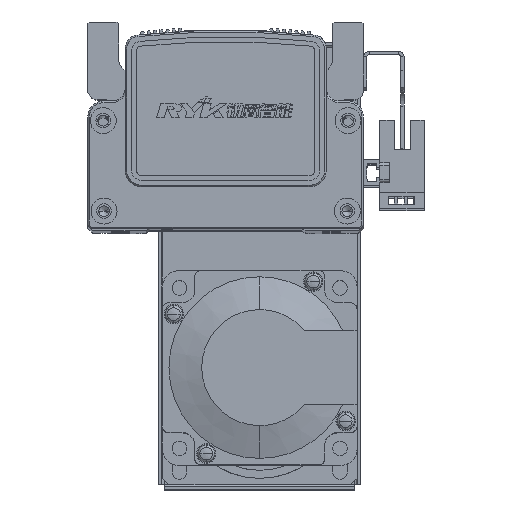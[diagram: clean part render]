
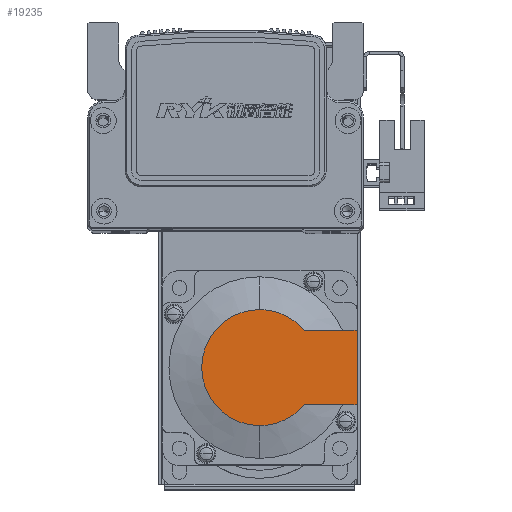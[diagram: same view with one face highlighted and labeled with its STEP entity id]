
A CAD part, top view. The second image highlights one B-rep face of the part: STEP entity #19235.
In plain terms, the highlighted planar face has unit normal (0, 0, 1) as drawn and (-1, 0, 0) by its records, which use the part's own axes.
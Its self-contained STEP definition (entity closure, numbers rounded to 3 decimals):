
#3270 = VERTEX_POINT ( 'NONE', #53366 ) ;
#3277 = VERTEX_POINT ( 'NONE', #53386 ) ;
#3295 = VERTEX_POINT ( 'NONE', #53452 ) ;
#3559 = VERTEX_POINT ( 'NONE', #51569 ) ;
#3617 = VERTEX_POINT ( 'NONE', #51671 ) ;
#3689 = VERTEX_POINT ( 'NONE', #51612 ) ;
#5653 = FACE_OUTER_BOUND ( 'NONE', #45326, .T. ) ;
#19235 = ADVANCED_FACE ( 'NONE', ( #5653 ), #28024, .T. ) ;
#23830 = ORIENTED_EDGE ( 'NONE', *, *, #39373, .F. ) ;
#23897 = ORIENTED_EDGE ( 'NONE', *, *, #48641, .T. ) ;
#23899 = ORIENTED_EDGE ( 'NONE', *, *, #39274, .T. ) ;
#23908 = ORIENTED_EDGE ( 'NONE', *, *, #39407, .F. ) ;
#23921 = ORIENTED_EDGE ( 'NONE', *, *, #39346, .T. ) ;
#23930 = ORIENTED_EDGE ( 'NONE', *, *, #48532, .T. ) ;
#28007 = CARTESIAN_POINT ( 'NONE',  ( -99., -8.941, 0. ) ) ;
#28024 = PLANE ( 'NONE',  #43385 ) ;
#28032 = DIRECTION ( 'NONE',  ( 0., 0., 1. ) ) ;
#28046 = DIRECTION ( 'NONE',  ( -1., 0., 0. ) ) ;
#28907 = CARTESIAN_POINT ( 'NONE',  ( -99., 0., 0. ) ) ;
#28917 = DIRECTION ( 'NONE',  ( -1., 0., 0. ) ) ;
#28925 = DIRECTION ( 'NONE',  ( 0., 0., -1. ) ) ;
#29025 = CARTESIAN_POINT ( 'NONE',  ( -99., 0., 0. ) ) ;
#29042 = DIRECTION ( 'NONE',  ( 0., 0., -1. ) ) ;
#29047 = DIRECTION ( 'NONE',  ( -1., 0., 0. ) ) ;
#34128 = LINE ( 'NONE', #41793, #34142 ) ;
#34142 = VECTOR ( 'NONE', #41811, 1000. ) ;
#34184 = LINE ( 'NONE', #41835, #34191 ) ;
#34191 = VECTOR ( 'NONE', #41825, 1000. ) ;
#34240 = VECTOR ( 'NONE', #41927, 1000. ) ;
#34293 = LINE ( 'NONE', #41939, #34240 ) ;
#39274 = EDGE_CURVE ( 'NONE', #3559, #3277, #46450, .T. ) ;
#39346 = EDGE_CURVE ( 'NONE', #3617, #3559, #34128, .T. ) ;
#39373 = EDGE_CURVE ( 'NONE', #3617, #3689, #34184, .T. ) ;
#39407 = EDGE_CURVE ( 'NONE', #3689, #3270, #34293, .T. ) ;
#41629 = DIRECTION ( 'NONE',  ( -1., 0., 0. ) ) ;
#41647 = CARTESIAN_POINT ( 'NONE',  ( -99., 0., 0. ) ) ;
#41648 = DIRECTION ( 'NONE',  ( 0., 0., -1. ) ) ;
#41793 = CARTESIAN_POINT ( 'NONE',  ( -99., -8.941, -11.45 ) ) ;
#41811 = DIRECTION ( 'NONE',  ( 0., -1., 0. ) ) ;
#41825 = DIRECTION ( 'NONE',  ( 0., 0., 1. ) ) ;
#41835 = CARTESIAN_POINT ( 'NONE',  ( -99., 30., 25. ) ) ;
#41927 = DIRECTION ( 'NONE',  ( 0., -1., 0. ) ) ;
#41939 = CARTESIAN_POINT ( 'NONE',  ( -99., 0., 11.45 ) ) ;
#43385 = AXIS2_PLACEMENT_3D ( 'NONE', #28007, #28046, #28032 ) ;
#44200 = AXIS2_PLACEMENT_3D ( 'NONE', #41647, #41629, #41648 ) ;
#45326 = EDGE_LOOP ( 'NONE', ( #23921, #23899, #23897, #23930, #23908, #23830 ) ) ;
#45794 = CIRCLE ( 'NONE', #52990, 17.881 ) ;
#45872 = CIRCLE ( 'NONE', #51909, 17.881 ) ;
#46450 = CIRCLE ( 'NONE', #44200, 17.881 ) ;
#48532 = EDGE_CURVE ( 'NONE', #3295, #3270, #45794, .T. ) ;
#48641 = EDGE_CURVE ( 'NONE', #3277, #3295, #45872, .T. ) ;
#51569 = CARTESIAN_POINT ( 'NONE',  ( -99., 13.735, -11.45 ) ) ;
#51612 = CARTESIAN_POINT ( 'NONE',  ( -99., 30., 11.45 ) ) ;
#51671 = CARTESIAN_POINT ( 'NONE',  ( -99., 30., -11.45 ) ) ;
#51909 = AXIS2_PLACEMENT_3D ( 'NONE', #29025, #29047, #29042 ) ;
#52990 = AXIS2_PLACEMENT_3D ( 'NONE', #28907, #28917, #28925 ) ;
#53366 = CARTESIAN_POINT ( 'NONE',  ( -99., 13.735, 11.45 ) ) ;
#53386 = CARTESIAN_POINT ( 'NONE',  ( -99., 0., -17.881 ) ) ;
#53452 = CARTESIAN_POINT ( 'NONE',  ( -99., 0., 17.881 ) ) ;
